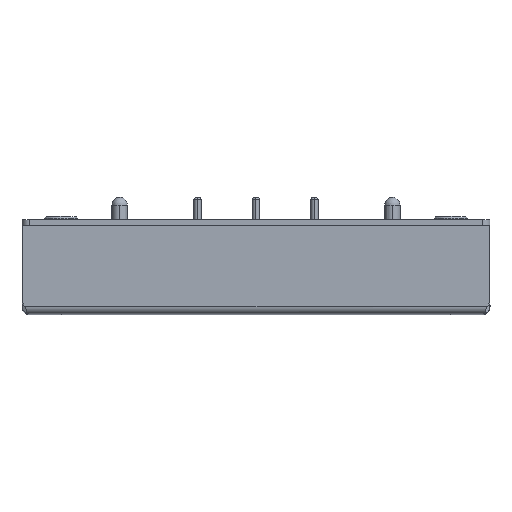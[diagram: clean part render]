
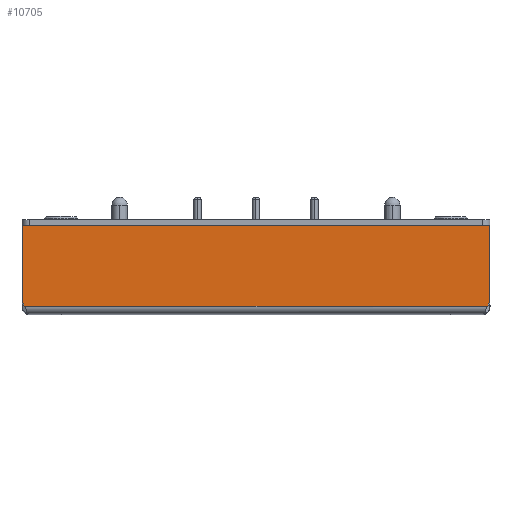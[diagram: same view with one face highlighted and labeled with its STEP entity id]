
A CAD part, top view. The second image highlights one B-rep face of the part: STEP entity #10705.
In plain terms, the highlighted planar face has unit normal (0, 0, 1).
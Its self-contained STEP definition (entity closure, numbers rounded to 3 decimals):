
#47 = ORIENTED_EDGE ( 'NONE', *, *, #50, .T. ) ;
#48 = VERTEX_POINT ( 'NONE', #9371 ) ;
#50 = EDGE_CURVE ( 'NONE', #9283, #48, #9366, .T. ) ;
#51 = ORIENTED_EDGE ( 'NONE', *, *, #9288, .F. ) ;
#52 = VERTEX_POINT ( 'NONE', #9423 ) ;
#59 = EDGE_CURVE ( 'NONE', #9285, #9313, #9422, .T. ) ;
#60 = ORIENTED_EDGE ( 'NONE', *, *, #9312, .F. ) ;
#61 = ORIENTED_EDGE ( 'NONE', *, *, #59, .F. ) ;
#62 = ORIENTED_EDGE ( 'NONE', *, *, #63, .T. ) ;
#63 = EDGE_CURVE ( 'NONE', #52, #9314, #9418, .T. ) ;
#64 = ORIENTED_EDGE ( 'NONE', *, *, #68, .F. ) ;
#68 = EDGE_CURVE ( 'NONE', #52, #6631, #9413, .T. ) ;
#73 = ORIENTED_EDGE ( 'NONE', *, *, #77, .T. ) ;
#75 = ORIENTED_EDGE ( 'NONE', *, *, #6632, .T. ) ;
#77 = EDGE_CURVE ( 'NONE', #48, #6696, #9397, .T. ) ;
#6188 = CARTESIAN_POINT ( 'NONE',  ( 30.433, 0.467, 28.95 ) ) ;
#6231 = DIRECTION ( 'NONE',  ( -0.5, -0.866, 0. ) ) ;
#6232 = VECTOR ( 'NONE', #6231, 1000. ) ;
#6233 = CARTESIAN_POINT ( 'NONE',  ( 29.984, -0.311, 28.95 ) ) ;
#6234 = LINE ( 'NONE', #6233, #6232 ) ;
#6235 = CARTESIAN_POINT ( 'NONE',  ( 30.163, 0., 28.95 ) ) ;
#6252 = CARTESIAN_POINT ( 'NONE',  ( -30.433, 0.467, 28.95 ) ) ;
#6253 = CARTESIAN_POINT ( 'NONE',  ( -30.163, 0., 28.95 ) ) ;
#6254 = DIRECTION ( 'NONE',  ( -0.5, 0.866, 0. ) ) ;
#6255 = VECTOR ( 'NONE', #6254, 1000. ) ;
#6256 = CARTESIAN_POINT ( 'NONE',  ( -29.984, -0.311, 28.95 ) ) ;
#6262 = LINE ( 'NONE', #6256, #6255 ) ;
#6341 = DIRECTION ( 'NONE',  ( 0., 1., 0. ) ) ;
#6342 = DIRECTION ( 'NONE',  ( 0., 0., -1. ) ) ;
#6343 = CARTESIAN_POINT ( 'NONE',  ( 42.043, 10.5, 28.95 ) ) ;
#6344 = AXIS2_PLACEMENT_3D ( 'NONE', #6343, #6342, #6341 ) ;
#6346 = PLANE ( 'NONE',  #6344 ) ;
#6347 = FACE_OUTER_BOUND ( 'NONE', #10425, .T. ) ;
#6631 = VERTEX_POINT ( 'NONE', #9631 ) ;
#6632 = EDGE_CURVE ( 'NONE', #6696, #6631, #9630, .T. ) ;
#6696 = VERTEX_POINT ( 'NONE', #9742 ) ;
#9283 = VERTEX_POINT ( 'NONE', #6188 ) ;
#9285 = VERTEX_POINT ( 'NONE', #6235 ) ;
#9288 = EDGE_CURVE ( 'NONE', #9283, #9285, #6234, .T. ) ;
#9312 = EDGE_CURVE ( 'NONE', #9313, #9314, #6262, .T. ) ;
#9313 = VERTEX_POINT ( 'NONE', #6253 ) ;
#9314 = VERTEX_POINT ( 'NONE', #6252 ) ;
#9363 = DIRECTION ( 'NONE',  ( 0., 0., 1. ) ) ;
#9364 = CARTESIAN_POINT ( 'NONE',  ( 30., 0.717, 28.95 ) ) ;
#9365 = AXIS2_PLACEMENT_3D ( 'NONE', #9364, #9363, #9424 ) ;
#9366 = CIRCLE ( 'NONE', #9365, 0.5 ) ;
#9371 = CARTESIAN_POINT ( 'NONE',  ( 30.5, 0.717, 28.95 ) ) ;
#9394 = DIRECTION ( 'NONE',  ( 0., 1., 0. ) ) ;
#9395 = VECTOR ( 'NONE', #9394, 1000. ) ;
#9396 = CARTESIAN_POINT ( 'NONE',  ( 30.5, 10.5, 28.95 ) ) ;
#9397 = LINE ( 'NONE', #9396, #9395 ) ;
#9410 = DIRECTION ( 'NONE',  ( 0., 1., 0. ) ) ;
#9411 = VECTOR ( 'NONE', #9410, 1000. ) ;
#9412 = CARTESIAN_POINT ( 'NONE',  ( -30.5, 10.5, 28.95 ) ) ;
#9413 = LINE ( 'NONE', #9412, #9411 ) ;
#9414 = DIRECTION ( 'NONE',  ( 0., 1., 0. ) ) ;
#9415 = DIRECTION ( 'NONE',  ( 0., 0., 1. ) ) ;
#9416 = CARTESIAN_POINT ( 'NONE',  ( -30., 0.717, 28.95 ) ) ;
#9417 = AXIS2_PLACEMENT_3D ( 'NONE', #9416, #9415, #9414 ) ;
#9418 = CIRCLE ( 'NONE', #9417, 0.5 ) ;
#9419 = DIRECTION ( 'NONE',  ( -1., 0., 0. ) ) ;
#9420 = VECTOR ( 'NONE', #9419, 1000. ) ;
#9421 = CARTESIAN_POINT ( 'NONE',  ( 42.043, 0., 28.95 ) ) ;
#9422 = LINE ( 'NONE', #9421, #9420 ) ;
#9423 = CARTESIAN_POINT ( 'NONE',  ( -30.5, 0.717, 28.95 ) ) ;
#9424 = DIRECTION ( 'NONE',  ( 0., 1., 0. ) ) ;
#9627 = DIRECTION ( 'NONE',  ( -1., 0., 0. ) ) ;
#9628 = VECTOR ( 'NONE', #9627, 1000. ) ;
#9629 = CARTESIAN_POINT ( 'NONE',  ( 42.043, 10.5, 28.95 ) ) ;
#9630 = LINE ( 'NONE', #9629, #9628 ) ;
#9631 = CARTESIAN_POINT ( 'NONE',  ( -30.5, 10.5, 28.95 ) ) ;
#9742 = CARTESIAN_POINT ( 'NONE',  ( 30.5, 10.5, 28.95 ) ) ;
#10425 = EDGE_LOOP ( 'NONE', ( #64, #62, #60, #61, #51, #47, #73, #75 ) ) ;
#10705 = ADVANCED_FACE ( 'NONE', ( #6347 ), #6346, .F. ) ;
